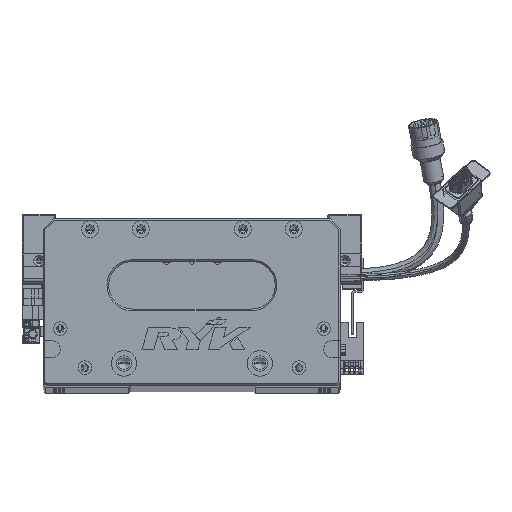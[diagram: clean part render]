
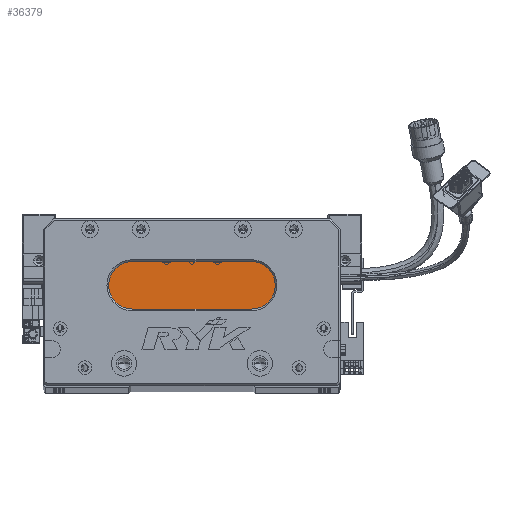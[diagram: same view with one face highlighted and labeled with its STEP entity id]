
A CAD part, top view. The second image highlights one B-rep face of the part: STEP entity #36379.
In plain terms, the highlighted planar face has unit normal (0, 0, 1) as drawn and (0, 0, -1) by its records, which use the part's own axes.
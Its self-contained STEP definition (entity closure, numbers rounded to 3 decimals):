
#927 = DIRECTION ( 'NONE',  ( 0., 0., -1. ) ) ;
#1294 = CARTESIAN_POINT ( 'NONE',  ( 52.5, 59., 18. ) ) ;
#2893 = CARTESIAN_POINT ( 'NONE',  ( 122.5, 73., 18. ) ) ;
#7428 = AXIS2_PLACEMENT_3D ( 'NONE', #35236, #9820, #97812 ) ;
#8950 = CIRCLE ( 'NONE', #64218, 14. ) ;
#9820 = DIRECTION ( 'NONE',  ( 0., 0., -1. ) ) ;
#10301 = DIRECTION ( 'NONE',  ( -1., 0., 0. ) ) ;
#13147 = AXIS2_PLACEMENT_3D ( 'NONE', #1294, #927, #10301 ) ;
#15738 = CARTESIAN_POINT ( 'NONE',  ( 38.5, 59., 18. ) ) ;
#18178 = CARTESIAN_POINT ( 'NONE',  ( 52.5, 59., 18. ) ) ;
#18501 = DIRECTION ( 'NONE',  ( -1., 0., 0. ) ) ;
#19629 = CARTESIAN_POINT ( 'NONE',  ( 122.5, 45., 18. ) ) ;
#21685 = VERTEX_POINT ( 'NONE', #27123 ) ;
#24604 = ORIENTED_EDGE ( 'NONE', *, *, #90287, .T. ) ;
#27123 = CARTESIAN_POINT ( 'NONE',  ( 52.5, 45., 18. ) ) ;
#28923 = ORIENTED_EDGE ( 'NONE', *, *, #80812, .T. ) ;
#32100 = CARTESIAN_POINT ( 'NONE',  ( 122.5, 73., 18. ) ) ;
#32101 = ORIENTED_EDGE ( 'NONE', *, *, #98576, .T. ) ;
#34980 = LINE ( 'NONE', #45840, #48947 ) ;
#35236 = CARTESIAN_POINT ( 'NONE',  ( 122.5, 59., 18. ) ) ;
#36379 = ADVANCED_FACE ( 'NONE', ( #76970 ), #51430, .T. ) ;
#39282 = LINE ( 'NONE', #32100, #89601 ) ;
#42034 = DIRECTION ( 'NONE',  ( 0., 0., -1. ) ) ;
#44066 = VERTEX_POINT ( 'NONE', #15738 ) ;
#45840 = CARTESIAN_POINT ( 'NONE',  ( 122.5, 45., 18. ) ) ;
#46653 = EDGE_CURVE ( 'NONE', #44066, #92394, #63824, .T. ) ;
#48947 = VECTOR ( 'NONE', #18501, 1000. ) ;
#51189 = AXIS2_PLACEMENT_3D ( 'NONE', #112498, #42034, #104666 ) ;
#51430 = PLANE ( 'NONE',  #51189 ) ;
#51970 = CIRCLE ( 'NONE', #7428, 14. ) ;
#63824 = CIRCLE ( 'NONE', #13147, 14. ) ;
#64218 = AXIS2_PLACEMENT_3D ( 'NONE', #18178, #91645, #110853 ) ;
#65553 = EDGE_CURVE ( 'NONE', #114839, #21685, #34980, .T. ) ;
#69614 = ORIENTED_EDGE ( 'NONE', *, *, #65553, .T. ) ;
#76970 = FACE_OUTER_BOUND ( 'NONE', #107814, .T. ) ;
#80617 = CARTESIAN_POINT ( 'NONE',  ( 52.5, 73., 18. ) ) ;
#80812 = EDGE_CURVE ( 'NONE', #92394, #85115, #39282, .T. ) ;
#85115 = VERTEX_POINT ( 'NONE', #2893 ) ;
#89601 = VECTOR ( 'NONE', #111555, 1000. ) ;
#90287 = EDGE_CURVE ( 'NONE', #21685, #44066, #8950, .T. ) ;
#91645 = DIRECTION ( 'NONE',  ( 0., 0., -1. ) ) ;
#92394 = VERTEX_POINT ( 'NONE', #80617 ) ;
#93650 = ORIENTED_EDGE ( 'NONE', *, *, #46653, .T. ) ;
#97812 = DIRECTION ( 'NONE',  ( -1., 0., 0. ) ) ;
#98576 = EDGE_CURVE ( 'NONE', #85115, #114839, #51970, .T. ) ;
#104666 = DIRECTION ( 'NONE',  ( -1., 0., 0. ) ) ;
#107814 = EDGE_LOOP ( 'NONE', ( #32101, #69614, #24604, #93650, #28923 ) ) ;
#110853 = DIRECTION ( 'NONE',  ( -1., 0., 0. ) ) ;
#111555 = DIRECTION ( 'NONE',  ( 1., 0., 0. ) ) ;
#112498 = CARTESIAN_POINT ( 'NONE',  ( 122.5, 59., 18. ) ) ;
#114839 = VERTEX_POINT ( 'NONE', #19629 ) ;
